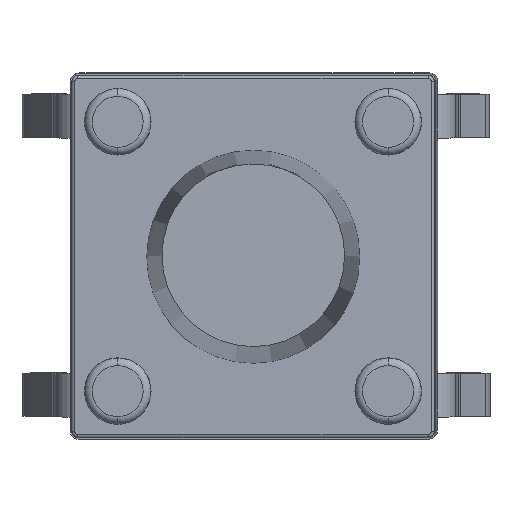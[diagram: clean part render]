
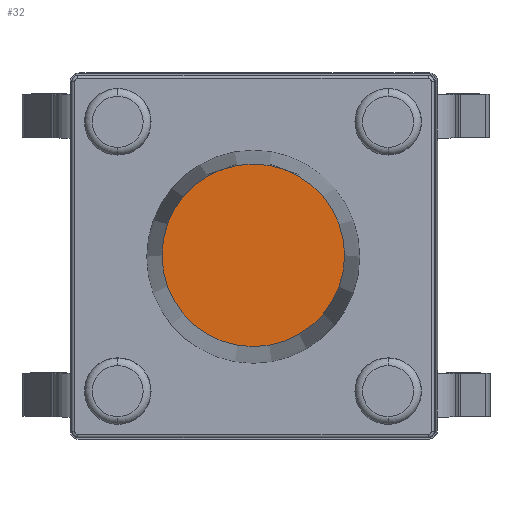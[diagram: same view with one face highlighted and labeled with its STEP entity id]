
A CAD part, top view. The second image highlights one B-rep face of the part: STEP entity #32.
In plain terms, the highlighted planar face has unit normal (0, 0, 1).
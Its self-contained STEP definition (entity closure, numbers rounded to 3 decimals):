
#32 = ADVANCED_FACE('',(#33),#46,.T.);
#33 = FACE_BOUND('',#34,.T.);
#34 = EDGE_LOOP('',(#35));
#35 = ORIENTED_EDGE('',*,*,#36,.T.);
#36 = EDGE_CURVE('',#37,#37,#39,.T.);
#37 = VERTEX_POINT('',#38);
#38 = CARTESIAN_POINT('',(-4.525,-0.033,16.95));
#39 = SURFACE_CURVE('',#40,(#45,#57),.PCURVE_S1.);
#40 = CIRCLE('',#41,1.5);
#41 = AXIS2_PLACEMENT_3D('',#42,#43,#44);
#42 = CARTESIAN_POINT('',(-6.025,-0.033,16.95));
#43 = DIRECTION('',(0.,0.,1.));
#44 = DIRECTION('',(1.,0.,0.));
#45 = PCURVE('',#46,#51);
#46 = PLANE('',#47);
#47 = AXIS2_PLACEMENT_3D('',#48,#49,#50);
#48 = CARTESIAN_POINT('',(-6.025,-0.033,16.95));
#49 = DIRECTION('',(0.,0.,1.));
#50 = DIRECTION('',(1.,0.,0.));
#51 = DEFINITIONAL_REPRESENTATION('',(#52),#56);
#52 = CIRCLE('',#53,1.5);
#53 = AXIS2_PLACEMENT_2D('',#54,#55);
#54 = CARTESIAN_POINT('',(0.,0.));
#55 = DIRECTION('',(1.,0.));
#56 = ( GEOMETRIC_REPRESENTATION_CONTEXT(2) 
PARAMETRIC_REPRESENTATION_CONTEXT() REPRESENTATION_CONTEXT('2D SPACE',''
  ) );
#57 = PCURVE('',#58,#63);
#58 = CONICAL_SURFACE('',#59,1.5,0.019);
#59 = AXIS2_PLACEMENT_3D('',#60,#61,#62);
#60 = CARTESIAN_POINT('',(-6.025,-0.033,16.95));
#61 = DIRECTION('',(-0.,-0.,-1.));
#62 = DIRECTION('',(1.,0.,0.));
#63 = DEFINITIONAL_REPRESENTATION('',(#64),#68);
#64 = LINE('',#65,#66);
#65 = CARTESIAN_POINT('',(-0.,0.));
#66 = VECTOR('',#67,1.);
#67 = DIRECTION('',(-1.,0.));
#68 = ( GEOMETRIC_REPRESENTATION_CONTEXT(2) 
PARAMETRIC_REPRESENTATION_CONTEXT() REPRESENTATION_CONTEXT('2D SPACE',''
  ) );
